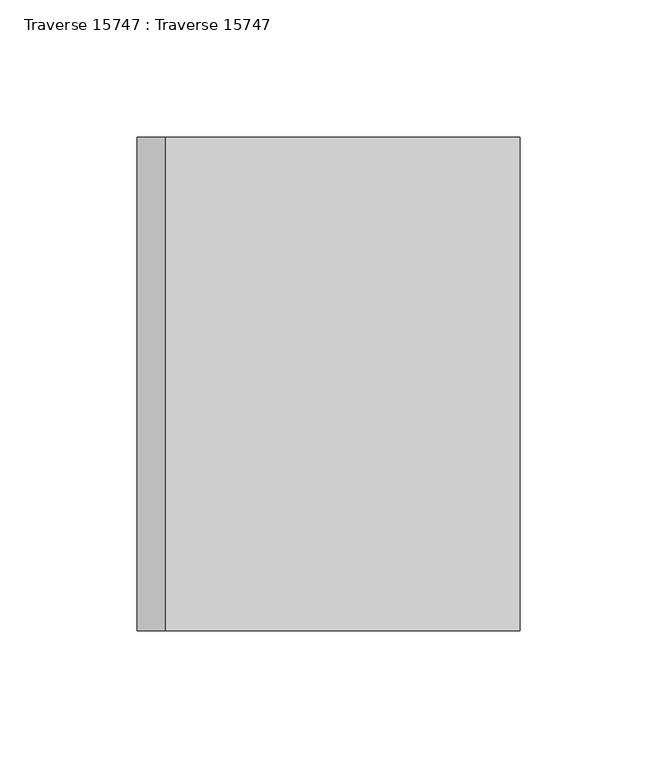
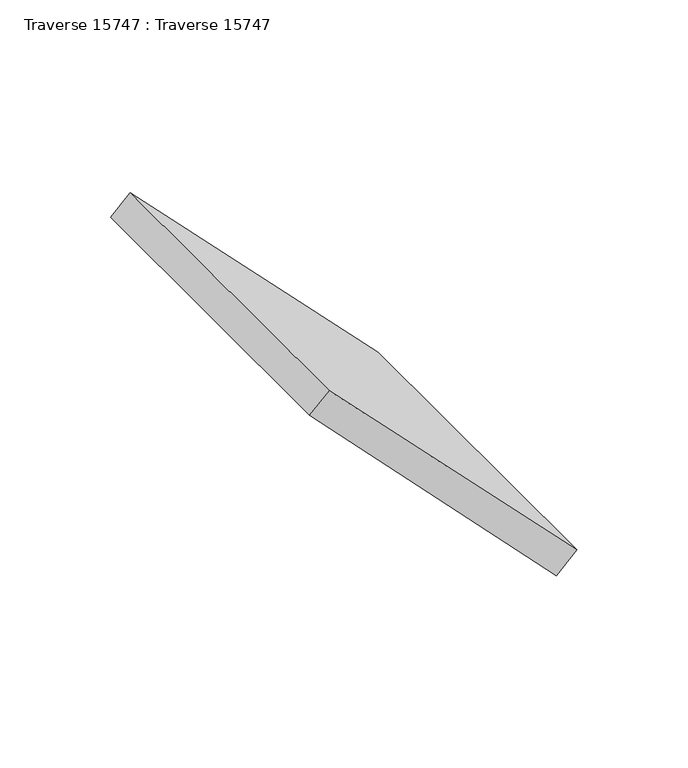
"""IFC4 building model written with IfcOpenShell, lengths in millimetres: beam geometry, Traverse 15747 : Traverse 15747."""

from ifc_helpers import new_model, si_unit, frame, origin, place, context, project, spatial, polyline, outline, extrude, source, transform, mapped, element, save


def traverse_15747_traverse_15747_f9a1cc1a(model_context):
    return source(origin(), model_context, "Body", "SweptSolid", [
        extrude(outline(polyline([(6966.6805983, 15375.010294), (7099.8571524, 15245.6549316), (7089.8656431, 15235.3683288), (6956.2807668, 15364.3033093), (6966.6805983, 15375.010294)])), frame((0.0, -4390.0, 0.0), z_axis=(0.0, 1.0, 0.0), x_axis=(0.0, 0.0, 1.0)), (0.0, 0.0, 1.0), 180.0),
    ])


if __name__ == "__main__":
    model = new_model("IFC4")
    model_context = context("Model", 3, world=origin())
    ifc_project = project(units=[si_unit("LENGTHUNIT", "METRE", prefix="MILLI")], contexts=[model_context])
    site = spatial("IfcSite", under=ifc_project)
    building = spatial("IfcBuilding", under=site)
    placement = place(None, origin())
    traverse_15747_traverse_15747_shape = traverse_15747_traverse_15747_f9a1cc1a(model_context)
    element("IfcBeam", 1, ObjectType="Traverse 15747 : Traverse 15747", at=placement, inside=building, context=model_context, shape_type="MappedRepresentation", body=[
        mapped(traverse_15747_traverse_15747_shape, transform((0.0, 0.0, 0.0), x_axis=(1.0, 0.0, 0.0), y_axis=(0.0, 1.0, 0.0), z_axis=(0.0, 0.0, 1.0))),
    ])
    save(model, "model.ifc")
